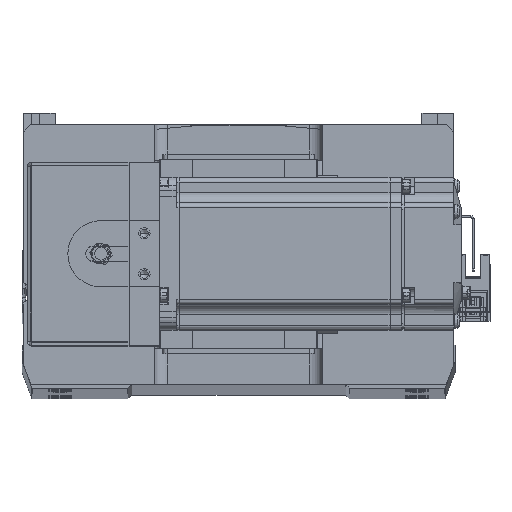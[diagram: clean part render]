
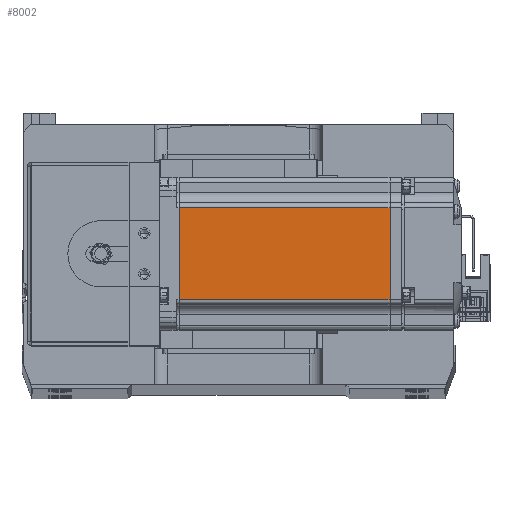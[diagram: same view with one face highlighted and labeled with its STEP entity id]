
A CAD part, top view. The second image highlights one B-rep face of the part: STEP entity #8002.
In plain terms, the highlighted planar face has unit normal (0, 0, 1) as drawn and (0, 1, 0) by its records, which use the part's own axes.
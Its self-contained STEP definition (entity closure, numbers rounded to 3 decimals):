
#598 = LINE ( 'NONE', #14241, #1646 ) ;
#1646 = VECTOR ( 'NONE', #42416, 1000. ) ;
#1776 = CARTESIAN_POINT ( 'NONE',  ( -90.45, 30., 18. ) ) ;
#2384 = DIRECTION ( 'NONE',  ( 0., 0., 1. ) ) ;
#2988 = EDGE_CURVE ( 'NONE', #39122, #32170, #27100, .T. ) ;
#5558 = EDGE_CURVE ( 'NONE', #25807, #13403, #38622, .T. ) ;
#8002 = ADVANCED_FACE ( 'NONE', ( #18285 ), #8363, .T. ) ;
#8363 = PLANE ( 'NONE',  #44292 ) ;
#10211 = DIRECTION ( 'NONE',  ( 0., 0., 1. ) ) ;
#11986 = VECTOR ( 'NONE', #2384, 1000. ) ;
#12552 = ORIENTED_EDGE ( 'NONE', *, *, #5558, .T. ) ;
#13403 = VERTEX_POINT ( 'NONE', #1776 ) ;
#14241 = CARTESIAN_POINT ( 'NONE',  ( -6.5, 30., 18. ) ) ;
#14461 = LINE ( 'NONE', #28577, #31359 ) ;
#15056 = CARTESIAN_POINT ( 'NONE',  ( -6.5, 30., 25. ) ) ;
#16847 = CARTESIAN_POINT ( 'NONE',  ( -90.45, 30., -18. ) ) ;
#18285 = FACE_OUTER_BOUND ( 'NONE', #38207, .T. ) ;
#19564 = ORIENTED_EDGE ( 'NONE', *, *, #2988, .F. ) ;
#21098 = CARTESIAN_POINT ( 'NONE',  ( -90.45, 30., 0. ) ) ;
#25807 = VERTEX_POINT ( 'NONE', #16847 ) ;
#25906 = DIRECTION ( 'NONE',  ( 0., 1., 0. ) ) ;
#25947 = CARTESIAN_POINT ( 'NONE',  ( -7.75, 30., 18. ) ) ;
#27100 = LINE ( 'NONE', #41819, #38030 ) ;
#28263 = ORIENTED_EDGE ( 'NONE', *, *, #43943, .T. ) ;
#28577 = CARTESIAN_POINT ( 'NONE',  ( -6.5, 30., -18. ) ) ;
#31359 = VECTOR ( 'NONE', #42617, 1000. ) ;
#31897 = ORIENTED_EDGE ( 'NONE', *, *, #40171, .T. ) ;
#32170 = VERTEX_POINT ( 'NONE', #25947 ) ;
#35145 = CARTESIAN_POINT ( 'NONE',  ( -7.75, 30., -18. ) ) ;
#38030 = VECTOR ( 'NONE', #10211, 1000. ) ;
#38207 = EDGE_LOOP ( 'NONE', ( #19564, #28263, #12552, #31897 ) ) ;
#38622 = LINE ( 'NONE', #21098, #11986 ) ;
#39122 = VERTEX_POINT ( 'NONE', #35145 ) ;
#39983 = DIRECTION ( 'NONE',  ( 0., 0., 1. ) ) ;
#40171 = EDGE_CURVE ( 'NONE', #13403, #32170, #598, .T. ) ;
#41819 = CARTESIAN_POINT ( 'NONE',  ( -7.75, 30., 0. ) ) ;
#42416 = DIRECTION ( 'NONE',  ( 1., 0., 0. ) ) ;
#42617 = DIRECTION ( 'NONE',  ( -1., 0., 0. ) ) ;
#43943 = EDGE_CURVE ( 'NONE', #39122, #25807, #14461, .T. ) ;
#44292 = AXIS2_PLACEMENT_3D ( 'NONE', #15056, #25906, #39983 ) ;
